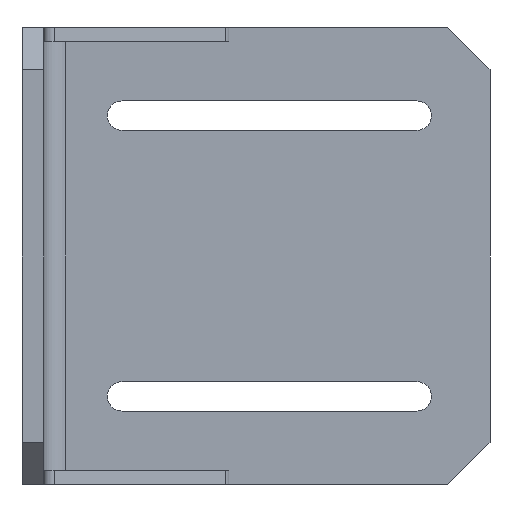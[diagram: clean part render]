
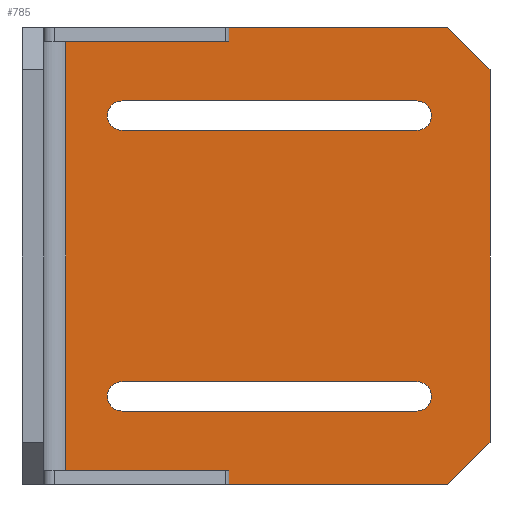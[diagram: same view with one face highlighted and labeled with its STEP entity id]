
A CAD part, left-side view. The second image highlights one B-rep face of the part: STEP entity #785.
In plain terms, the highlighted planar face has unit normal (-1, 0, 0).
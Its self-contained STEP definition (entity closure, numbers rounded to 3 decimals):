
#20=FACE_BOUND('',#125,.T.);
#21=FACE_BOUND('',#126,.T.);
#38=CIRCLE('',#857,2.1);
#39=CIRCLE('',#858,2.1);
#40=CIRCLE('',#859,2.1);
#41=CIRCLE('',#860,2.1);
#80=FACE_OUTER_BOUND('',#124,.T.);
#124=EDGE_LOOP('',(#566,#567,#568,#569,#570,#571,#572,#573,#574,#575,#576,
#577,#578,#579));
#125=EDGE_LOOP('',(#580,#581,#582,#583));
#126=EDGE_LOOP('',(#584,#585,#586,#587));
#167=LINE('',#1141,#252);
#171=LINE('',#1153,#256);
#177=LINE('',#1168,#262);
#189=LINE('',#1203,#274);
#190=LINE('',#1205,#275);
#191=LINE('',#1207,#276);
#192=LINE('',#1209,#277);
#193=LINE('',#1211,#278);
#194=LINE('',#1213,#279);
#195=LINE('',#1215,#280);
#196=LINE('',#1217,#281);
#197=LINE('',#1219,#282);
#198=LINE('',#1221,#283);
#199=LINE('',#1222,#284);
#200=LINE('',#1227,#285);
#201=LINE('',#1230,#286);
#202=LINE('',#1235,#287);
#203=LINE('',#1238,#288);
#252=VECTOR('',#915,10.);
#256=VECTOR('',#925,10.);
#262=VECTOR('',#941,10.);
#274=VECTOR('',#967,10.);
#275=VECTOR('',#968,10.);
#276=VECTOR('',#969,10.);
#277=VECTOR('',#970,10.);
#278=VECTOR('',#971,10.);
#279=VECTOR('',#972,10.);
#280=VECTOR('',#973,10.);
#281=VECTOR('',#974,10.);
#282=VECTOR('',#975,10.);
#283=VECTOR('',#976,10.);
#284=VECTOR('',#977,10.);
#285=VECTOR('',#980,10.);
#286=VECTOR('',#983,10.);
#287=VECTOR('',#986,10.);
#288=VECTOR('',#989,10.);
#337=VERTEX_POINT('',#1138);
#338=VERTEX_POINT('',#1140);
#340=VERTEX_POINT('',#1146);
#343=VERTEX_POINT('',#1151);
#363=VERTEX_POINT('',#1202);
#364=VERTEX_POINT('',#1204);
#365=VERTEX_POINT('',#1206);
#366=VERTEX_POINT('',#1208);
#367=VERTEX_POINT('',#1210);
#368=VERTEX_POINT('',#1212);
#369=VERTEX_POINT('',#1214);
#370=VERTEX_POINT('',#1216);
#371=VERTEX_POINT('',#1218);
#372=VERTEX_POINT('',#1220);
#373=VERTEX_POINT('',#1223);
#374=VERTEX_POINT('',#1224);
#375=VERTEX_POINT('',#1226);
#376=VERTEX_POINT('',#1228);
#377=VERTEX_POINT('',#1231);
#378=VERTEX_POINT('',#1232);
#379=VERTEX_POINT('',#1234);
#380=VERTEX_POINT('',#1236);
#411=EDGE_CURVE('',#338,#337,#167,.T.);
#417=EDGE_CURVE('',#343,#340,#171,.T.);
#425=EDGE_CURVE('',#343,#338,#177,.T.);
#442=EDGE_CURVE('',#337,#363,#189,.T.);
#443=EDGE_CURVE('',#363,#364,#190,.T.);
#444=EDGE_CURVE('',#364,#365,#191,.T.);
#445=EDGE_CURVE('',#365,#366,#192,.T.);
#446=EDGE_CURVE('',#366,#367,#193,.T.);
#447=EDGE_CURVE('',#368,#367,#194,.T.);
#448=EDGE_CURVE('',#368,#369,#195,.T.);
#449=EDGE_CURVE('',#369,#370,#196,.T.);
#450=EDGE_CURVE('',#370,#371,#197,.T.);
#451=EDGE_CURVE('',#371,#372,#198,.T.);
#452=EDGE_CURVE('',#372,#340,#199,.T.);
#453=EDGE_CURVE('',#373,#374,#38,.T.);
#454=EDGE_CURVE('',#374,#375,#200,.T.);
#455=EDGE_CURVE('',#375,#376,#39,.T.);
#456=EDGE_CURVE('',#376,#373,#201,.T.);
#457=EDGE_CURVE('',#377,#378,#40,.T.);
#458=EDGE_CURVE('',#378,#379,#202,.T.);
#459=EDGE_CURVE('',#379,#380,#41,.T.);
#460=EDGE_CURVE('',#380,#377,#203,.T.);
#566=ORIENTED_EDGE('',*,*,#417,.F.);
#567=ORIENTED_EDGE('',*,*,#425,.T.);
#568=ORIENTED_EDGE('',*,*,#411,.T.);
#569=ORIENTED_EDGE('',*,*,#442,.T.);
#570=ORIENTED_EDGE('',*,*,#443,.T.);
#571=ORIENTED_EDGE('',*,*,#444,.T.);
#572=ORIENTED_EDGE('',*,*,#445,.T.);
#573=ORIENTED_EDGE('',*,*,#446,.T.);
#574=ORIENTED_EDGE('',*,*,#447,.F.);
#575=ORIENTED_EDGE('',*,*,#448,.T.);
#576=ORIENTED_EDGE('',*,*,#449,.T.);
#577=ORIENTED_EDGE('',*,*,#450,.T.);
#578=ORIENTED_EDGE('',*,*,#451,.T.);
#579=ORIENTED_EDGE('',*,*,#452,.T.);
#580=ORIENTED_EDGE('',*,*,#453,.T.);
#581=ORIENTED_EDGE('',*,*,#454,.T.);
#582=ORIENTED_EDGE('',*,*,#455,.T.);
#583=ORIENTED_EDGE('',*,*,#456,.T.);
#584=ORIENTED_EDGE('',*,*,#457,.T.);
#585=ORIENTED_EDGE('',*,*,#458,.T.);
#586=ORIENTED_EDGE('',*,*,#459,.T.);
#587=ORIENTED_EDGE('',*,*,#460,.T.);
#759=PLANE('',#856);
#785=ADVANCED_FACE('',(#80,#20,#21),#759,.F.);
#856=AXIS2_PLACEMENT_3D('',#1201,#965,#966);
#857=AXIS2_PLACEMENT_3D('',#1225,#978,#979);
#858=AXIS2_PLACEMENT_3D('',#1229,#981,#982);
#859=AXIS2_PLACEMENT_3D('',#1233,#984,#985);
#860=AXIS2_PLACEMENT_3D('',#1237,#987,#988);
#915=DIRECTION('',(0.,0.,1.));
#925=DIRECTION('',(0.,0.,1.));
#941=DIRECTION('',(0.,1.,0.));
#965=DIRECTION('center_axis',(1.,0.,0.));
#966=DIRECTION('ref_axis',(0.,0.,1.));
#967=DIRECTION('',(0.,1.,0.));
#968=DIRECTION('',(0.,0.,-1.));
#969=DIRECTION('',(0.,-1.,0.));
#970=DIRECTION('',(0.,0.,1.));
#971=DIRECTION('',(0.,-1.,0.));
#972=DIRECTION('',(0.,0.,1.));
#973=DIRECTION('',(0.,-1.,0.));
#974=DIRECTION('',(0.,-0.707,0.707));
#975=DIRECTION('',(0.,0.,1.));
#976=DIRECTION('',(0.,0.707,0.707));
#977=DIRECTION('',(0.,1.,0.));
#978=DIRECTION('center_axis',(1.,0.,0.));
#979=DIRECTION('ref_axis',(0.,0.,1.));
#980=DIRECTION('',(0.,1.,0.));
#981=DIRECTION('center_axis',(1.,0.,0.));
#982=DIRECTION('ref_axis',(0.,0.,
-1.));
#983=DIRECTION('',(0.,-1.,0.));
#984=DIRECTION('center_axis',(1.,0.,0.));
#985=DIRECTION('ref_axis',(0.,0.,1.));
#986=DIRECTION('',(0.,-1.,0.));
#987=DIRECTION('center_axis',(1.,0.,0.));
#988=DIRECTION('ref_axis',(0.,0.,
-1.));
#989=DIRECTION('',(0.,1.,0.));
#1138=CARTESIAN_POINT('',(1.244,-4.1,32.55));
#1140=CARTESIAN_POINT('',(1.244,-4.1,30.55));
#1141=CARTESIAN_POINT('',(1.244,-4.1,16.275));
#1146=CARTESIAN_POINT('',(1.244,-25.4,32.55));
#1151=CARTESIAN_POINT('',(1.244,-25.4,30.55));
#1153=CARTESIAN_POINT('',(1.244,-25.4,32.55));
#1168=CARTESIAN_POINT('',(1.244,-5.572,30.55));
#1201=CARTESIAN_POINT('Origin',(1.244,2.056,0.));
#1202=CARTESIAN_POINT('',(1.244,-3.1,32.55));
#1203=CARTESIAN_POINT('',(1.244,-57.6,32.55));
#1204=CARTESIAN_POINT('',(1.244,-3.1,-32.55));
#1205=CARTESIAN_POINT('',(1.244,-3.1,-16.275));
#1206=CARTESIAN_POINT('',(1.244,-4.1,-32.55));
#1207=CARTESIAN_POINT('',(1.244,61.712,-32.55));
#1208=CARTESIAN_POINT('',(1.244,-4.1,-30.55));
#1209=CARTESIAN_POINT('',(1.244,-4.1,-16.275));
#1210=CARTESIAN_POINT('',(1.244,-25.4,-30.55));
#1211=CARTESIAN_POINT('',(1.244,-5.572,-30.55));
#1212=CARTESIAN_POINT('',(1.244,-25.4,-32.55));
#1213=CARTESIAN_POINT('',(1.244,-25.4,-32.55));
#1214=CARTESIAN_POINT('',(1.244,-57.6,-32.55));
#1215=CARTESIAN_POINT('',(1.244,61.712,-32.55));
#1216=CARTESIAN_POINT('',(1.244,-63.6,-26.55));
#1217=CARTESIAN_POINT('',(1.244,-57.6,-32.55));
#1218=CARTESIAN_POINT('',(1.244,-63.6,26.55));
#1219=CARTESIAN_POINT('',(1.244,-63.6,-26.55));
#1220=CARTESIAN_POINT('',(1.244,-57.6,32.55));
#1221=CARTESIAN_POINT('',(1.244,-63.6,26.55));
#1222=CARTESIAN_POINT('',(1.244,-57.6,32.55));
#1223=CARTESIAN_POINT('',(1.244,-53.16,-17.9));
#1224=CARTESIAN_POINT('',(1.244,-53.16,-22.1));
#1225=CARTESIAN_POINT('Origin',(1.244,-53.16,-20.));
#1226=CARTESIAN_POINT('',(1.244,-11.16,-22.1));
#1227=CARTESIAN_POINT('',(1.244,-4.552,-22.1));
#1228=CARTESIAN_POINT('',(1.244,-11.16,-17.9));
#1229=CARTESIAN_POINT('Origin',(1.244,-11.16,-20.));
#1230=CARTESIAN_POINT('',(1.244,-25.552,-17.9));
#1231=CARTESIAN_POINT('',(1.244,-11.16,17.9));
#1232=CARTESIAN_POINT('',(1.244,-11.16,22.1));
#1233=CARTESIAN_POINT('Origin',(1.244,-11.16,20.));
#1234=CARTESIAN_POINT('',(1.244,-53.16,22.1));
#1235=CARTESIAN_POINT('',(1.244,-25.552,22.1));
#1236=CARTESIAN_POINT('',(1.244,-53.16,17.9));
#1237=CARTESIAN_POINT('Origin',(1.244,-53.16,20.));
#1238=CARTESIAN_POINT('',(1.244,-4.552,17.9));
